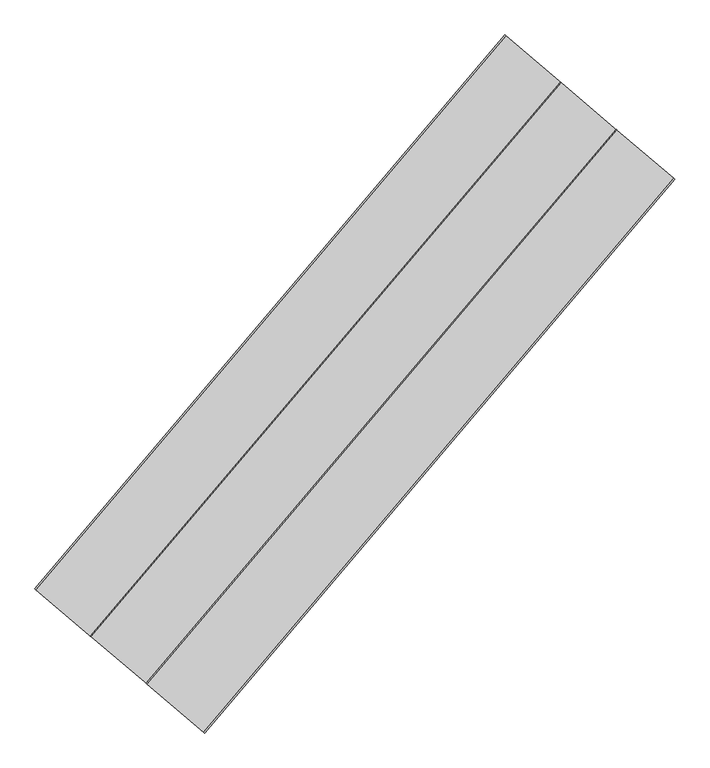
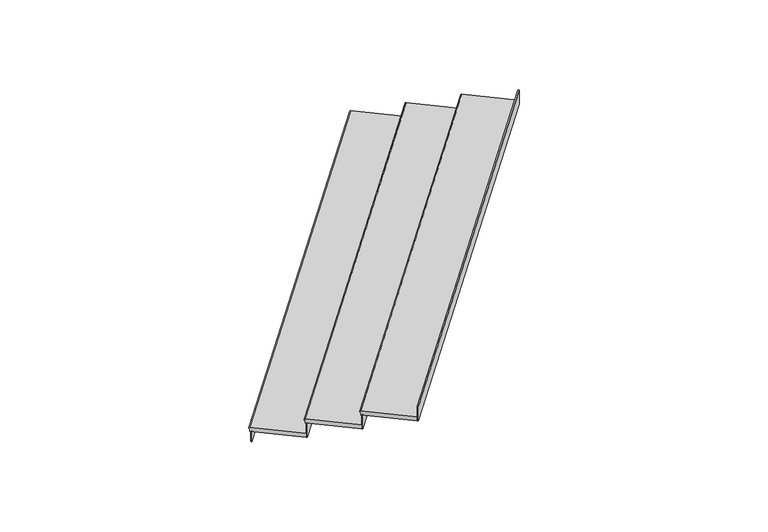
"""IFC4 building model written with IfcOpenShell, lengths in millimetres: stair flight geometry, Wood Steps with 50 mm Tread 20 mm Nosing 13 mm Riser."""

import ifcopenshell
import ifcopenshell.guid

model = None  # the IFC model being written
_history = None  # IfcOwnerHistory: only IFC2X3 demands one
_inside = {}  # id of a spatial element -> (the spatial element, [elements in it])
_under = {}  # id of a project, library or spatial element -> (it, [spatial elements below it])
_declared = {}  # id of a project -> (the project, [libraries it declares])
_typed = {}  # id of a type object -> (the type object, [elements of that type])
_made_of = {}  # id of a material, layer set ... -> (it, [elements and type objects made of it])


def new_model(schema):
    """Start an empty IFC model of exactly this schema.

    Asked for "IFC4X3", IfcOpenShell would pick the latest addendum, in which some entities
    have other attributes; the version numbers below select the first issue.
    IFC2X3 requires an IfcOwnerHistory on every rooted entity: one is made here for all.
    """
    global model, _history
    if schema == "IFC4X3":
        model = ifcopenshell.file(schema_version=(4, 3, 0, 0))
    else:
        model = ifcopenshell.file(schema=schema)
    _inside.clear()
    _under.clear()
    _declared.clear()
    _typed.clear()
    _made_of.clear()
    _history = None
    if model.schema == "IFC2X3":
        org = make("IfcOrganization", Name="unknown")
        user = make(
            "IfcPersonAndOrganization",
            ThePerson=make("IfcPerson", FamilyName="unknown"),
            TheOrganization=org,
        )
        app = make(
            "IfcApplication",
            ApplicationDeveloper=org,
            Version="unknown",
            ApplicationFullName="unknown",
            ApplicationIdentifier="unknown",
        )
        _history = make(
            "IfcOwnerHistory",
            OwningUser=user,
            OwningApplication=app,
            ChangeAction="ADDED",
            CreationDate=0,
        )
    return model


def make(cls, **values):
    """One entity of the class cls with the attributes given. An attribute that is None is left unset."""
    return model.create_entity(
        cls, **{name: value for name, value in values.items() if value is not None}
    )


def rooted(cls, **values):
    """An entity with a GlobalId (a new one), such as an element, a storey or a relation."""
    return make(cls, GlobalId=ifcopenshell.guid.new(), OwnerHistory=_history, **values)


def si_unit(unit_type, name, prefix=None):
    """IfcSIUnit, for example si_unit("LENGTHUNIT", "METRE", prefix="MILLI")."""
    return make("IfcSIUnit", UnitType=unit_type, Prefix=prefix, Name=name)


def assignment(units):
    """IfcUnitAssignment: the units of a project."""
    return None if units is None else make("IfcUnitAssignment", Units=units)


def point(xyz):
    """IfcCartesianPoint."""
    return None if xyz is None else make("IfcCartesianPoint", Coordinates=xyz)


def direction(xyz):
    """IfcDirection."""
    return None if xyz is None else make("IfcDirection", DirectionRatios=xyz)


def frame(location, z_axis=None, x_axis=None):
    """IfcAxis2Placement3D, a coordinate frame: its origin and axes. An axis left out is left unset."""
    return make(
        "IfcAxis2Placement3D",
        Location=point(location),
        Axis=direction(z_axis),
        RefDirection=direction(x_axis),
    )


def frame_2d(location, x_axis=None):
    """IfcAxis2Placement2D, a coordinate frame in the plane: its origin and x axis."""
    return make(
        "IfcAxis2Placement2D", Location=point(location), RefDirection=direction(x_axis)
    )


def origin():
    """The frame at (0, 0, 0) with its axes left unset."""
    return frame((0.0, 0.0, 0.0))


def place(relative_to, where):
    """IfcLocalPlacement: puts the frame where relative to a parent placement (None: the world)."""
    return make(
        "IfcLocalPlacement", PlacementRelTo=relative_to, RelativePlacement=where
    )


def context(
    kind, dimensions, precision=None, world=None, true_north=None, identifier=None
):
    """IfcGeometricRepresentationContext, for example the 3D "Model" context."""
    return make(
        "IfcGeometricRepresentationContext",
        ContextIdentifier=identifier,
        ContextType=kind,
        CoordinateSpaceDimension=dimensions,
        Precision=precision,
        WorldCoordinateSystem=world,
        TrueNorth=true_north,
    )


def project(units=None, contexts=None):
    """IfcProject with its units and contexts."""
    return rooted(
        "IfcProject",
        Name="project",
        RepresentationContexts=contexts,
        UnitsInContext=assignment(units),
    )


def spatial(cls, under=None, at=None, **own):
    """A site, building, storey or space (cls), placed at a placement, below another one or the project."""
    s = rooted(cls, ObjectPlacement=at, **own)
    if under is not None:
        _under.setdefault(under.id(), (under, []))[1].append(s)
    return s


def polyline(points):
    """IfcPolyline through the points."""
    return make("IfcPolyline", Points=[point(p) for p in points])


def circle_curve(where, radius):
    """IfcCircle in the frame where."""
    return make("IfcCircle", Position=where, Radius=radius)


def trimmed(basis, trim1, trim2, sense, master):
    """IfcTrimmedCurve: the piece of a basis curve between two trims."""
    return make(
        "IfcTrimmedCurve",
        BasisCurve=basis,
        Trim1=trim1,
        Trim2=trim2,
        SenseAgreement=sense,
        MasterRepresentation=master,
    )


def segment(curve, same_sense, transition):
    """IfcCompositeCurveSegment."""
    return make(
        "IfcCompositeCurveSegment",
        Transition=transition,
        SameSense=same_sense,
        ParentCurve=curve,
    )


def composite_curve(segments, self_intersect=None):
    """IfcCompositeCurve: segments joined end to end."""
    return make("IfcCompositeCurve", Segments=segments, SelfIntersect=self_intersect)


def outline(outer, holes=None, kind="AREA"):
    """IfcArbitraryClosedProfileDef: a profile drawn as a closed curve; with holes, ...WithVoids."""
    if holes is None:
        return make("IfcArbitraryClosedProfileDef", ProfileType=kind, OuterCurve=outer)
    return make(
        "IfcArbitraryProfileDefWithVoids",
        ProfileType=kind,
        OuterCurve=outer,
        InnerCurves=holes,
    )


def extrude(swept, where, along, depth):
    """IfcExtrudedAreaSolid: the profile swept, set in the frame where, extruded along a direction by depth."""
    return make(
        "IfcExtrudedAreaSolid",
        SweptArea=swept,
        Position=where,
        ExtrudedDirection=direction(along),
        Depth=depth,
    )


def shape(context_of_items, identifier, shape_type, items):
    """IfcShapeRepresentation: the items that make up one representation, for example the "Body"."""
    return make(
        "IfcShapeRepresentation",
        ContextOfItems=context_of_items,
        RepresentationIdentifier=identifier,
        RepresentationType=shape_type,
        Items=items,
    )


def source(mapping_origin, context_of_items, identifier, shape_type, items):
    """IfcRepresentationMap: a shape defined once, which mapped items show again and again."""
    return make(
        "IfcRepresentationMap",
        MappingOrigin=mapping_origin,
        MappedRepresentation=shape(context_of_items, identifier, shape_type, items),
    )


def transform(
    local_origin,
    x_axis=None,
    y_axis=None,
    z_axis=None,
    scale=None,
    scale2=None,
    scale3=None,
    uniform=True,
):
    """IfcCartesianTransformationOperator3D, or its non-uniform kind. x_axis, y_axis, z_axis: its Axis1, 2, 3."""
    if uniform:
        return make(
            "IfcCartesianTransformationOperator3D",
            Axis1=direction(x_axis),
            Axis2=direction(y_axis),
            LocalOrigin=point(local_origin),
            Scale=scale,
            Axis3=direction(z_axis),
        )
    return make(
        "IfcCartesianTransformationOperator3DnonUniform",
        Axis1=direction(x_axis),
        Axis2=direction(y_axis),
        LocalOrigin=point(local_origin),
        Scale=scale,
        Axis3=direction(z_axis),
        Scale2=scale2,
        Scale3=scale3,
    )


def mapped(mapping_source, mapping_target):
    """IfcMappedItem: shows the shape of a source again, moved by a transform."""
    return make(
        "IfcMappedItem", MappingSource=mapping_source, MappingTarget=mapping_target
    )


def made_of(thing, what):
    """Note that an element or type object is made of a material, layer set ...; save() writes the relation."""
    if what is not None:
        _made_of.setdefault(what.id(), (what, []))[1].append(thing)
    return thing


def element(
    cls,
    number,
    at=None,
    inside=None,
    cuts=None,
    type_object=None,
    material=None,
    context=None,
    identifier="Body",
    shape_type=None,
    held_by="IfcProductDefinitionShape",
    body=None,
    shapes=None,
    **own,
):
    """One element of the class cls, such as IfcWall. Its Tag is "e" and its number.

    at: its placement. inside: the storey or other place that contains it. cuts: it is an
    opening in that element (IfcRelVoidsElement). A single representation is given by context,
    identifier, shape_type and body (its items); several are given by shapes. held_by: the class
    of the entity that holds the representations. save() writes the other relations.
    """
    e = rooted(cls, Tag="e%d" % number, ObjectPlacement=at, **own)
    if body is not None:
        shapes = [shape(context, identifier, shape_type, body)]
    if shapes is not None:
        e.Representation = make(held_by, Representations=shapes)
    if inside is not None:
        _inside.setdefault(inside.id(), (inside, []))[1].append(e)
    if cuts is not None:
        rooted(
            "IfcRelVoidsElement", RelatingBuildingElement=cuts, RelatedOpeningElement=e
        )
    if type_object is not None:
        _typed.setdefault(type_object.id(), (type_object, []))[1].append(e)
    return made_of(e, material)


def aggregate(whole, parts):
    """IfcRelAggregates: a whole, such as a stair, and the parts it consists of."""
    return rooted("IfcRelAggregates", RelatingObject=whole, RelatedObjects=parts)


def save(model, path):
    """Write the relations noted so far, then the file.

    IfcRelAggregates (storeys below a building ...), IfcRelContainedInSpatialStructure (elements
    in a storey), IfcRelDefinesByType, IfcRelAssociatesMaterial and IfcRelDeclares: one each for
    every whole, place, type object, material and project.
    """
    for whole, parts in _under.values():
        aggregate(whole, parts)
    for where, things in _inside.values():
        rooted(
            "IfcRelContainedInSpatialStructure",
            RelatedElements=things,
            RelatingStructure=where,
        )
    for kind, things in _typed.values():
        rooted("IfcRelDefinesByType", RelatedObjects=things, RelatingType=kind)
    for what, things in _made_of.values():
        rooted("IfcRelAssociatesMaterial", RelatedObjects=things, RelatingMaterial=what)
    for by, libraries in _declared.values():
        rooted("IfcRelDeclares", RelatingContext=by, RelatedDefinitions=libraries)
    model.write(path)


def stair_flight_e3c3b916(model_context):
    return source(origin(), model_context, "Body", "SweptSolid", [
        extrude(outline(composite_curve([segment(polyline([(0.0, -598.410772), (0.0, 0.0)]), True, "CONTINUOUS"), segment(trimmed(circle_curve(frame_2d((10.0, 0.0)), 10.0), [point((0.0, 0.0))], [point((20.0, 0.0))], False, "CARTESIAN"), True, "CONTINUOUS"), segment(polyline([(20.0, 0.0), (50.0, 0.0), (50.0, -598.410772), (0.0, -598.410772)]), True, "CONTINUOUS")], self_intersect=False)), frame((816785.5383919, 54044.4162285, 1179.2941176), z_axis=(0.647356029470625, 0.7621877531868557, 0.0), x_axis=(0.0, 0.0, -1.0)), (0.0, 0.0, 1.0), 5857.7663367),
        extrude(outline(polyline([(816802.6876163, 54029.8507178), (816793.1602694, 54037.9426682), (820585.2206267, 58502.660431), (820594.7479736, 58494.5684806), (816802.6876163, 54029.8507178)])), frame((0.0, 0.0, 1000.0), z_axis=(0.0, 0.0, 1.0), x_axis=(1.0, 0.0, 0.0)), (0.0, 0.0, 1.0), 129.2941176),
        extrude(outline(polyline([(817251.1671006, 53648.9394567), (817241.6397536, 53657.0314071), (821033.7001109, 58121.74917), (821043.2274578, 58113.6572196), (817251.1671006, 53648.9394567)])), frame((0.0, 0.0, 1129.2941176), z_axis=(0.0, 0.0, 1.0), x_axis=(1.0, 0.0, 0.0)), (0.0, 0.0, 1.0), 179.2941176),
        extrude(outline(composite_curve([segment(polyline([(0.0, -598.410772), (0.0, 0.0)]), True, "CONTINUOUS"), segment(trimmed(circle_curve(frame_2d((10.0, 0.0)), 10.0), [point((0.0, 0.0))], [point((20.0, 0.0))], False, "CARTESIAN"), True, "CONTINUOUS"), segment(polyline([(20.0, 0.0), (50.0, 0.0), (50.0, -598.410772), (0.0, -598.410772)]), True, "CONTINUOUS")], self_intersect=False)), frame((817234.0178761, 53663.5049674, 1358.5882353), z_axis=(0.647356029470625, 0.7621877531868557, 0.0), x_axis=(0.0, 0.0, -1.0)), (0.0, 0.0, 1.0), 5857.7663367),
        extrude(outline(polyline([(817699.6465848, 53268.0281957), (817690.1192379, 53276.1201461), (821482.1795952, 57740.8379089), (821491.7069421, 57732.7459585), (817699.6465848, 53268.0281957)])), frame((0.0, 0.0, 1308.5882353), z_axis=(0.0, 0.0, 1.0), x_axis=(1.0, 0.0, 0.0)), (0.0, 0.0, 1.0), 179.2941176),
        extrude(outline(polyline([(818148.1260691, 52887.1169346), (818138.5987221, 52895.208885), (821930.6590794, 57359.9266479), (821940.1864263, 57351.8346975), (818148.1260691, 52887.1169346)])), frame((0.0, 0.0, 1487.8823529), z_axis=(0.0, 0.0, 1.0), x_axis=(1.0, 0.0, 0.0)), (0.0, 0.0, 1.0), 179.2941176),
        extrude(outline(composite_curve([segment(polyline([(0.0, -598.410772), (0.0, 0.0)]), True, "CONTINUOUS"), segment(trimmed(circle_curve(frame_2d((10.0, 0.0)), 10.0), [point((0.0, 0.0))], [point((20.0, 0.0))], False, "CARTESIAN"), True, "CONTINUOUS"), segment(polyline([(20.0, 0.0), (50.0, 0.0), (50.0, -598.410772), (0.0, -598.410772)]), True, "CONTINUOUS")], self_intersect=False)), frame((817682.4973604, 53282.5937064, 1537.8823529), z_axis=(0.647356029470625, 0.7621877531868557, 0.0), x_axis=(0.0, 0.0, -1.0)), (0.0, 0.0, 1.0), 5857.7663367),
    ])


if __name__ == "__main__":
    model = new_model("IFC4")
    model_context = context("Model", 3, world=origin())
    ifc_project = project(units=[si_unit("LENGTHUNIT", "METRE", prefix="MILLI")], contexts=[model_context])
    site = spatial("IfcSite", under=ifc_project)
    building = spatial("IfcBuilding", under=site)
    placement = place(None, origin())
    stair_flight_shape = stair_flight_e3c3b916(model_context)
    element("IfcStairFlight", 1, ObjectType="Wood Steps with 50 mm Tread 20 mm Nosing 13 mm Riser", at=placement, inside=building, context=model_context, shape_type="MappedRepresentation", body=[
        mapped(stair_flight_shape, transform((0.0, 0.0, 0.0), x_axis=(1.0, 0.0, 0.0), y_axis=(0.0, 1.0, 0.0), z_axis=(0.0, 0.0, 1.0))),
    ])
    save(model, "model.ifc")
